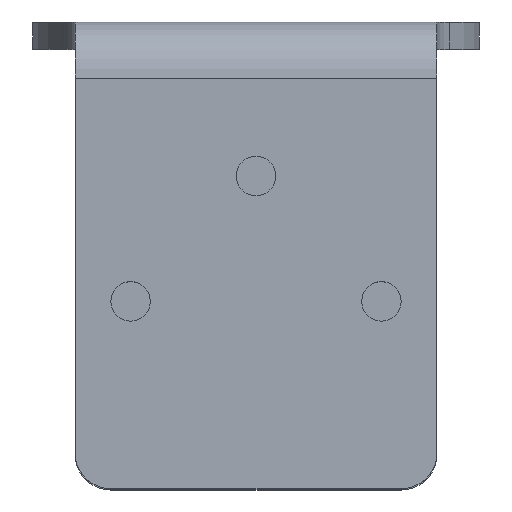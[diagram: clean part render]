
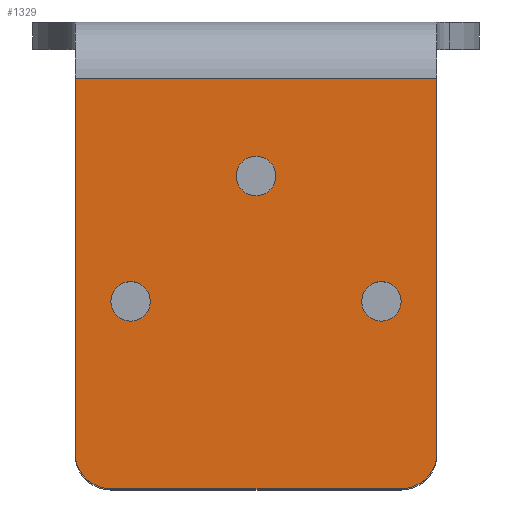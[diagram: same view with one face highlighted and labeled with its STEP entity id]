
A CAD part, top view. The second image highlights one B-rep face of the part: STEP entity #1329.
In plain terms, the highlighted planar face has unit normal (0, 0, 1).
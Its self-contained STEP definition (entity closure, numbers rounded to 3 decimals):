
#2 = DIRECTION ( 'NONE',  ( 1., 0., 0. ) ) ;
#33 = CARTESIAN_POINT ( 'NONE',  ( -7., -15.6, 21.9 ) ) ;
#52 = ORIENTED_EDGE ( 'NONE', *, *, #228, .F. ) ;
#64 = VERTEX_POINT ( 'NONE', #463 ) ;
#100 = VERTEX_POINT ( 'NONE', #1311 ) ;
#109 = EDGE_LOOP ( 'NONE', ( #1105, #377 ) ) ;
#149 = DIRECTION ( 'NONE',  ( 0., 0., 1. ) ) ;
#151 = CARTESIAN_POINT ( 'NONE',  ( -1.1, -8.6, 21.9 ) ) ;
#167 = ORIENTED_EDGE ( 'NONE', *, *, #279, .F. ) ;
#184 = EDGE_CURVE ( 'NONE', #1137, #1512, #352, .T. ) ;
#186 = VERTEX_POINT ( 'NONE', #151 ) ;
#189 = ORIENTED_EDGE ( 'NONE', *, *, #1441, .T. ) ;
#207 = EDGE_CURVE ( 'NONE', #588, #1044, #1244, .T. ) ;
#228 = EDGE_CURVE ( 'NONE', #100, #1044, #1233, .T. ) ;
#229 = CARTESIAN_POINT ( 'NONE',  ( 0., -3.15, 21.9 ) ) ;
#253 = ORIENTED_EDGE ( 'NONE', *, *, #207, .T. ) ;
#260 = FACE_OUTER_BOUND ( 'NONE', #1368, .T. ) ;
#279 = EDGE_CURVE ( 'NONE', #552, #1221, #1016, .T. ) ;
#308 = DIRECTION ( 'NONE',  ( 1., 0., 0. ) ) ;
#352 = CIRCLE ( 'NONE', #960, 1.1 ) ;
#354 = CARTESIAN_POINT ( 'NONE',  ( 5.9, -15.6, 21.9 ) ) ;
#377 = ORIENTED_EDGE ( 'NONE', *, *, #732, .F. ) ;
#415 = DIRECTION ( 'NONE',  ( 0., -1., 0. ) ) ;
#418 = CARTESIAN_POINT ( 'NONE',  ( 8.1, -24.05, 21.9 ) ) ;
#437 = AXIS2_PLACEMENT_3D ( 'NONE', #938, #1065, #640 ) ;
#456 = DIRECTION ( 'NONE',  ( 0., 0., 1. ) ) ;
#463 = CARTESIAN_POINT ( 'NONE',  ( -10.1, -24.05, 21.9 ) ) ;
#483 = CARTESIAN_POINT ( 'NONE',  ( 0., -8.6, 21.9 ) ) ;
#550 = EDGE_CURVE ( 'NONE', #1512, #1137, #1054, .T. ) ;
#552 = VERTEX_POINT ( 'NONE', #1136 ) ;
#554 = LINE ( 'NONE', #1139, #1670 ) ;
#586 = DIRECTION ( 'NONE',  ( 0., 0., 1. ) ) ;
#588 = VERTEX_POINT ( 'NONE', #1727 ) ;
#612 = LINE ( 'NONE', #1009, #1579 ) ;
#623 = VECTOR ( 'NONE', #1073, 1000. ) ;
#630 = CIRCLE ( 'NONE', #1705, 2. ) ;
#640 = DIRECTION ( 'NONE',  ( 1., 0., 0. ) ) ;
#649 = CARTESIAN_POINT ( 'NONE',  ( 10.1, -1.5, 21.9 ) ) ;
#703 = AXIS2_PLACEMENT_3D ( 'NONE', #1623, #1590, #1310 ) ;
#729 = DIRECTION ( 'NONE',  ( 0., 1., 0. ) ) ;
#732 = EDGE_CURVE ( 'NONE', #186, #803, #1447, .T. ) ;
#759 = CARTESIAN_POINT ( 'NONE',  ( 7., -15.6, 21.9 ) ) ;
#760 = ORIENTED_EDGE ( 'NONE', *, *, #1825, .T. ) ;
#786 = CARTESIAN_POINT ( 'NONE',  ( 1.1, -8.6, 21.9 ) ) ;
#793 = DIRECTION ( 'NONE',  ( 1., 0., 0. ) ) ;
#795 = AXIS2_PLACEMENT_3D ( 'NONE', #1007, #149, #1027 ) ;
#797 = CARTESIAN_POINT ( 'NONE',  ( -8.1, -26.05, 21.9 ) ) ;
#801 = CIRCLE ( 'NONE', #1877, 2. ) ;
#803 = VERTEX_POINT ( 'NONE', #786 ) ;
#813 = DIRECTION ( 'NONE',  ( 0., 1., 0. ) ) ;
#817 = ORIENTED_EDGE ( 'NONE', *, *, #1437, .T. ) ;
#825 = CIRCLE ( 'NONE', #795, 1.1 ) ;
#830 = VECTOR ( 'NONE', #793, 1000. ) ;
#840 = CARTESIAN_POINT ( 'NONE',  ( -8.1, -24.05, 21.9 ) ) ;
#863 = CARTESIAN_POINT ( 'NONE',  ( 8.1, -26.05, 21.9 ) ) ;
#886 = ORIENTED_EDGE ( 'NONE', *, *, #550, .F. ) ;
#923 = EDGE_LOOP ( 'NONE', ( #1198, #167 ) ) ;
#938 = CARTESIAN_POINT ( 'NONE',  ( -7., -15.6, 21.9 ) ) ;
#957 = FACE_BOUND ( 'NONE', #923, .T. ) ;
#960 = AXIS2_PLACEMENT_3D ( 'NONE', #759, #456, #308 ) ;
#967 = EDGE_CURVE ( 'NONE', #803, #186, #825, .T. ) ;
#978 = VERTEX_POINT ( 'NONE', #863 ) ;
#986 = AXIS2_PLACEMENT_3D ( 'NONE', #1544, #1562, #813 ) ;
#1007 = CARTESIAN_POINT ( 'NONE',  ( 0., -8.6, 21.9 ) ) ;
#1009 = CARTESIAN_POINT ( 'NONE',  ( 10.1, -26.05, 21.9 ) ) ;
#1016 = CIRCLE ( 'NONE', #1574, 1.1 ) ;
#1027 = DIRECTION ( 'NONE',  ( 1., 0., 0. ) ) ;
#1037 = CARTESIAN_POINT ( 'NONE',  ( 10.1, -3.15, 21.9 ) ) ;
#1044 = VERTEX_POINT ( 'NONE', #1037 ) ;
#1054 = CIRCLE ( 'NONE', #703, 1.1 ) ;
#1065 = DIRECTION ( 'NONE',  ( 0., 0., 1. ) ) ;
#1069 = ORIENTED_EDGE ( 'NONE', *, *, #1681, .T. ) ;
#1073 = DIRECTION ( 'NONE',  ( 0., 1., 0. ) ) ;
#1103 = ORIENTED_EDGE ( 'NONE', *, *, #184, .F. ) ;
#1105 = ORIENTED_EDGE ( 'NONE', *, *, #967, .F. ) ;
#1107 = EDGE_CURVE ( 'NONE', #1221, #552, #1112, .T. ) ;
#1112 = CIRCLE ( 'NONE', #437, 1.1 ) ;
#1114 = AXIS2_PLACEMENT_3D ( 'NONE', #483, #1524, #1220 ) ;
#1136 = CARTESIAN_POINT ( 'NONE',  ( -8.1, -15.6, 21.9 ) ) ;
#1137 = VERTEX_POINT ( 'NONE', #1688 ) ;
#1139 = CARTESIAN_POINT ( 'NONE',  ( -10.1, -26.05, 21.9 ) ) ;
#1156 = DIRECTION ( 'NONE',  ( 0., 0., 1. ) ) ;
#1198 = ORIENTED_EDGE ( 'NONE', *, *, #1107, .F. ) ;
#1220 = DIRECTION ( 'NONE',  ( 1., 0., 0. ) ) ;
#1221 = VERTEX_POINT ( 'NONE', #1859 ) ;
#1233 = LINE ( 'NONE', #229, #830 ) ;
#1244 = LINE ( 'NONE', #649, #623 ) ;
#1281 = DIRECTION ( 'NONE',  ( 0., 0., 1. ) ) ;
#1310 = DIRECTION ( 'NONE',  ( 1., 0., 0. ) ) ;
#1311 = CARTESIAN_POINT ( 'NONE',  ( -10.1, -3.15, 21.9 ) ) ;
#1313 = DIRECTION ( 'NONE',  ( 1., 0., 0. ) ) ;
#1329 = ADVANCED_FACE ( 'NONE', ( #1697, #260, #1864, #957 ), #1554, .F. ) ;
#1341 = EDGE_LOOP ( 'NONE', ( #1103, #886 ) ) ;
#1368 = EDGE_LOOP ( 'NONE', ( #1069, #760, #253, #52, #189, #817 ) ) ;
#1437 = EDGE_CURVE ( 'NONE', #64, #1876, #801, .T. ) ;
#1441 = EDGE_CURVE ( 'NONE', #100, #64, #554, .T. ) ;
#1447 = CIRCLE ( 'NONE', #1114, 1.1 ) ;
#1512 = VERTEX_POINT ( 'NONE', #354 ) ;
#1524 = DIRECTION ( 'NONE',  ( 0., 0., 1. ) ) ;
#1544 = CARTESIAN_POINT ( 'NONE',  ( 0., 0., 21.9 ) ) ;
#1554 = PLANE ( 'NONE',  #986 ) ;
#1562 = DIRECTION ( 'NONE',  ( 0., 0., -1. ) ) ;
#1574 = AXIS2_PLACEMENT_3D ( 'NONE', #33, #586, #1313 ) ;
#1579 = VECTOR ( 'NONE', #2, 1000. ) ;
#1585 = DIRECTION ( 'NONE',  ( 0., 1., 0. ) ) ;
#1590 = DIRECTION ( 'NONE',  ( 0., 0., 1. ) ) ;
#1623 = CARTESIAN_POINT ( 'NONE',  ( 7., -15.6, 21.9 ) ) ;
#1670 = VECTOR ( 'NONE', #415, 1000. ) ;
#1681 = EDGE_CURVE ( 'NONE', #1876, #978, #612, .T. ) ;
#1688 = CARTESIAN_POINT ( 'NONE',  ( 8.1, -15.6, 21.9 ) ) ;
#1697 = FACE_BOUND ( 'NONE', #1341, .T. ) ;
#1705 = AXIS2_PLACEMENT_3D ( 'NONE', #418, #1156, #729 ) ;
#1727 = CARTESIAN_POINT ( 'NONE',  ( 10.1, -24.05, 21.9 ) ) ;
#1825 = EDGE_CURVE ( 'NONE', #978, #588, #630, .T. ) ;
#1859 = CARTESIAN_POINT ( 'NONE',  ( -5.9, -15.6, 21.9 ) ) ;
#1864 = FACE_BOUND ( 'NONE', #109, .T. ) ;
#1876 = VERTEX_POINT ( 'NONE', #797 ) ;
#1877 = AXIS2_PLACEMENT_3D ( 'NONE', #840, #1281, #1585 ) ;
